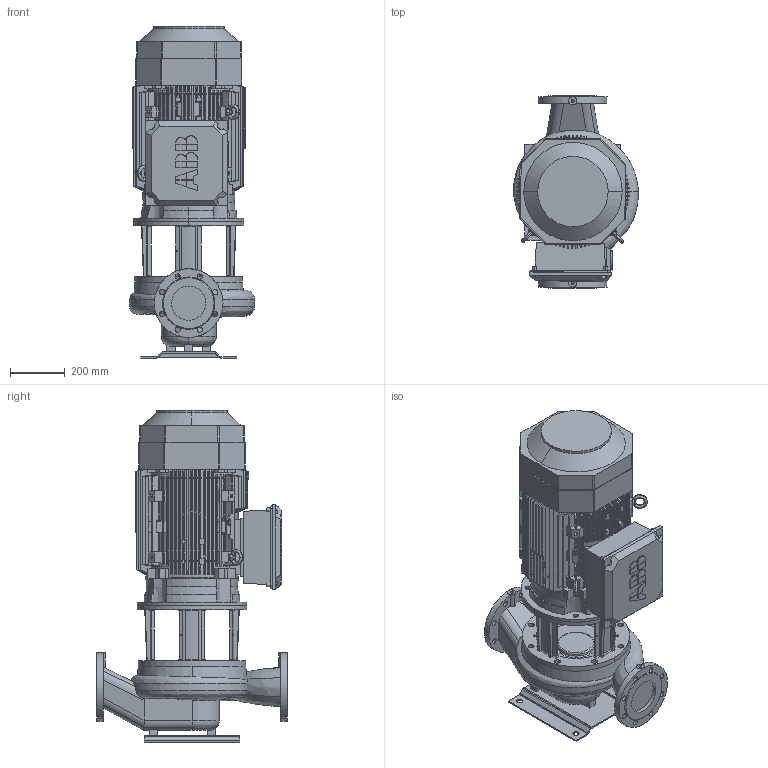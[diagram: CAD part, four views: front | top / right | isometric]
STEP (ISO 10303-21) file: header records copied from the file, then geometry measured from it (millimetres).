
FILE_DESCRIPTION(('STEP AP214'),'1');
FILE_NAME('export.stp','2018-05-29T13:18:03',(' '),(' '),'Spatial InterOp 3D',' ',' ');
FILE_SCHEMA(('AUTOMOTIVE_DESIGN { 1 0 10303 214 1 1 1 1 }'));
Length unit declared in the file: millimetre
Products named in the file (20): W_AL11292SD370; V_TL110611291154; V_PPAL1129; P100496; P100495; P100342; IEC-200; -simplified-simplified_parts_Sta; 3GZV183002-193006-183002-183999_; 3GZV311000-999999-324000-324001_; -simplified-simplified_parts_Ter; 3GZV244000-310999-294000-299999_; -simplified-simplified_parts_M32; -simplified-simplified_parts_Fan; Implementation-STANDARD_PARTS_Li; ICE200_FRAME; P100781
Assembly tree (21 placements, depth 4):
  W_AL11292SD370
    V_TL110611291154
    V_PPAL1129
    P100496
      P100495  x2
      P100342
    ICE200_FRAME
      IEC-200
        -simplified-simplified_parts_Sta
        3GZV183002-193006-183002-183999_
        3GZV311000-999999-324000-324001_
        -simplified-simplified_parts_Ter
        -simplified-simplified_parts_Ter
        3GZV244000-310999-294000-299999_
        3GZV244000-310999-294000-299999_
        3GZV244000-310999-294000-299999_
        -simplified-simplified_parts_M32
        -simplified-simplified_parts_Fan
        Implementation-STANDARD_PARTS_Li  x2
      P100781
Bounding box: 456.06 x 700 x 1210.53 mm (x, y, z)
Volume: 117697216.3 mm3; surface area: 5709255.3 mm2
Topology: 13 solids, 262 shells, 2097 faces, 6361 edges, 4542 vertices
Faces by surface type: bspline 1711, cylinder 216, plane 100, torus 38, cone 32
Entity records: 113828 total; most frequent: CARTESIAN_POINT 38412, ORIENTED_EDGE 11264, STYLED_ITEM 6212, PRESENTATION_STYLE_ASSIGNMENT 6212, COLOUR_RGB 6212, EDGE_CURVE 6168, VERTEX_POINT 4384, CURVE_STYLE 4140
